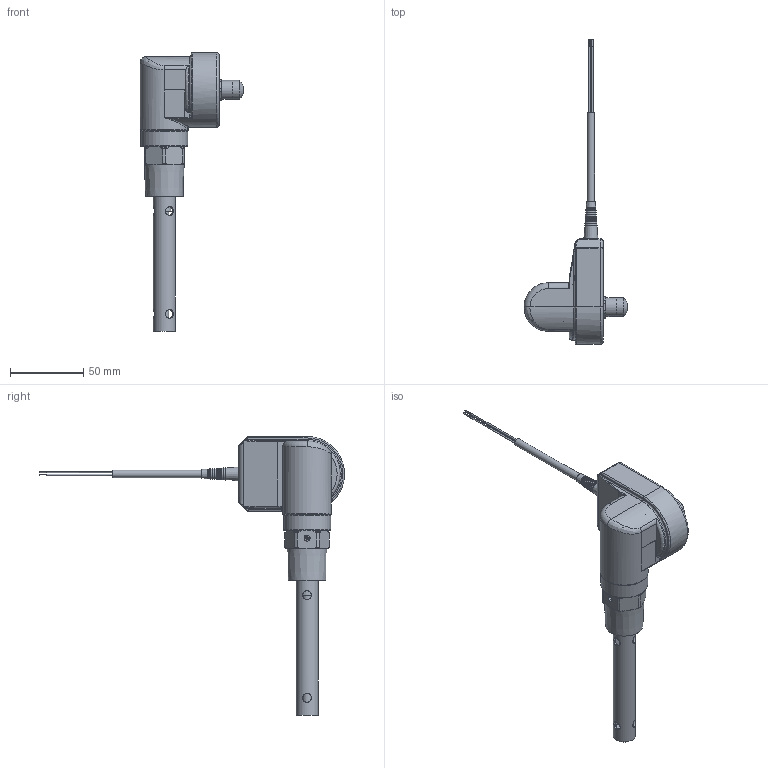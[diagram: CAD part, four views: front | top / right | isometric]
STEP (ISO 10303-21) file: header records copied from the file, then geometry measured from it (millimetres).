
FILE_DESCRIPTION((''),'2;1');
FILE_NAME('R:\Mekanisk design\HBOC-HBSO1\5. STEP files\HBOC-SAM-KOM-VINKEL.stp','2013-03-06T13:11:56',('svj'),(''),'Autodesk Inventor 2013','Autodesk Inventor 2013','');
FILE_SCHEMA(('AUTOMOTIVE_DESIGN { 1 0 10303 214 1 1 1 1 }'));
Length unit declared in the file: millimetre
Products named in the file (1): HBOC-SAM-KOM-VINKEL
Bounding box: 70.75 x 207.7 x 190 mm (x, y, z)
Volume: 88796.8 mm3; surface area: 70532.2 mm2
Topology: 2 solids, 19 shells, 1499 faces, 3866 edges, 2502 vertices
Faces by surface type: plane 864, cylinder 287, bspline 206, cone 71, torus 57, sphere 14
Full cylindrical faces by diameter (mm): 0.5 x4, 0.7 x3, 1 x22, 1.003 x1, 1.3 x1, 1.8 x1, 2 x2, 2.459 x2, 2.729 x1, 2.83 x1, 3 x3, 3.2 x1, 3.242 x1, 3.5 x2, 3.6 x6, 3.8 x1, 4 x18, 4.134 x2, 4.2 x1, 4.7 x1, 5 x15, 5.9 x1, 6 x10, 6.1 x1, 6.2 x2, 6.3 x1, 7 x1, 8 x1, 8.3 x1, 8.5 x1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
Entity records: 54257 total; most frequent: CARTESIAN_POINT 18725, ORIENTED_EDGE 7030, DIRECTION 6339, EDGE_CURVE 3515, VERTEX_POINT 2382, AXIS2_PLACEMENT_3D 2128, VECTOR 2083, LINE 2083
